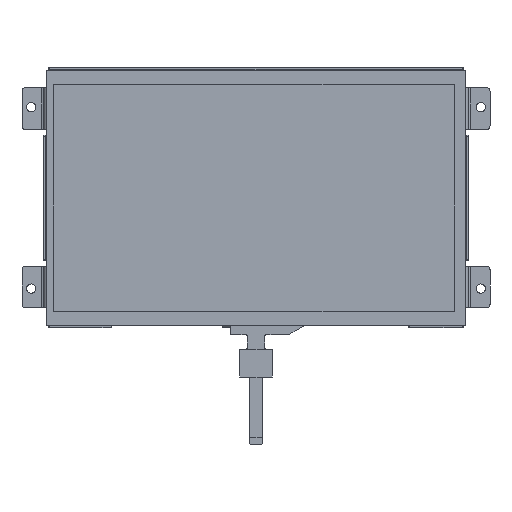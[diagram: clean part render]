
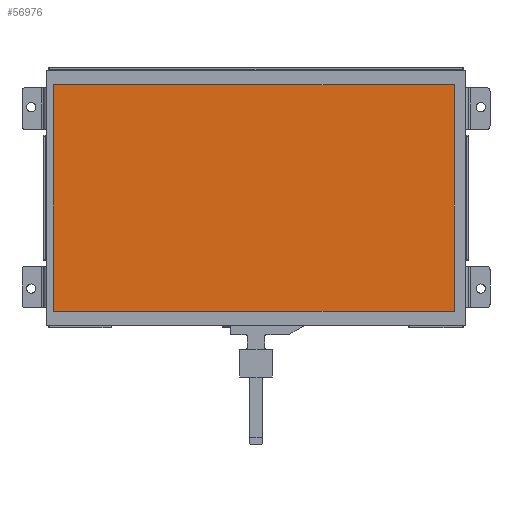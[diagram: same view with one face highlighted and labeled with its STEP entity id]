
A CAD part, top view. The second image highlights one B-rep face of the part: STEP entity #56976.
In plain terms, the highlighted planar face has unit normal (0, 0, 1).
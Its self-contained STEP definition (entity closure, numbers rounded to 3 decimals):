
#585 = VERTEX_POINT ( 'NONE', #29712 ) ;
#645 = EDGE_CURVE ( 'NONE', #47972, #60462, #40600, .T. ) ;
#6275 = DIRECTION ( 'NONE',  ( 1., 0., 0. ) ) ;
#7387 = LINE ( 'NONE', #50259, #20187 ) ;
#7758 = CARTESIAN_POINT ( 'NONE',  ( -113.45, 63.38, 0.7 ) ) ;
#9082 = ORIENTED_EDGE ( 'NONE', *, *, #27095, .T. ) ;
#10621 = ORIENTED_EDGE ( 'NONE', *, *, #63684, .T. ) ;
#10859 = LINE ( 'NONE', #7758, #67185 ) ;
#11610 = VECTOR ( 'NONE', #30411, 1000. ) ;
#13186 = CARTESIAN_POINT ( 'NONE',  ( 111.02, 63.38, 0.7 ) ) ;
#14500 = CARTESIAN_POINT ( 'NONE',  ( -113.45, 63.38, 0.7 ) ) ;
#16547 = CARTESIAN_POINT ( 'NONE',  ( -113.45, -63.61, 0.7 ) ) ;
#16908 = ORIENTED_EDGE ( 'NONE', *, *, #28215, .T. ) ;
#17618 = DIRECTION ( 'NONE',  ( 1., 0., 0. ) ) ;
#18058 = VECTOR ( 'NONE', #18676, 1000. ) ;
#18676 = DIRECTION ( 'NONE',  ( 0., 1., 0. ) ) ;
#20187 = VECTOR ( 'NONE', #17618, 1000. ) ;
#27095 = EDGE_CURVE ( 'NONE', #31308, #47972, #10859, .T. ) ;
#27889 = PLANE ( 'NONE',  #29847 ) ;
#28215 = EDGE_CURVE ( 'NONE', #60462, #585, #7387, .T. ) ;
#29712 = CARTESIAN_POINT ( 'NONE',  ( 111.02, -63.61, 0.7 ) ) ;
#29847 = AXIS2_PLACEMENT_3D ( 'NONE', #33404, #38895, #6275 ) ;
#30411 = DIRECTION ( 'NONE',  ( 0., -1., 0. ) ) ;
#31308 = VERTEX_POINT ( 'NONE', #55875 ) ;
#32113 = FACE_OUTER_BOUND ( 'NONE', #47750, .T. ) ;
#33404 = CARTESIAN_POINT ( 'NONE',  ( 0., 0., 0.7 ) ) ;
#38895 = DIRECTION ( 'NONE',  ( 0., 0., 1. ) ) ;
#40600 = LINE ( 'NONE', #63147, #11610 ) ;
#45888 = DIRECTION ( 'NONE',  ( -1., 0., 0. ) ) ;
#47043 = LINE ( 'NONE', #13186, #18058 ) ;
#47750 = EDGE_LOOP ( 'NONE', ( #65715, #16908, #10621, #9082 ) ) ;
#47972 = VERTEX_POINT ( 'NONE', #14500 ) ;
#50259 = CARTESIAN_POINT ( 'NONE',  ( -113.45, -63.61, 0.7 ) ) ;
#55875 = CARTESIAN_POINT ( 'NONE',  ( 111.02, 63.38, 0.7 ) ) ;
#56976 = ADVANCED_FACE ( 'NONE', ( #32113 ), #27889, .T. ) ;
#60462 = VERTEX_POINT ( 'NONE', #16547 ) ;
#63147 = CARTESIAN_POINT ( 'NONE',  ( -113.45, 63.38, 0.7 ) ) ;
#63684 = EDGE_CURVE ( 'NONE', #585, #31308, #47043, .T. ) ;
#65715 = ORIENTED_EDGE ( 'NONE', *, *, #645, .T. ) ;
#67185 = VECTOR ( 'NONE', #45888, 1000. ) ;
